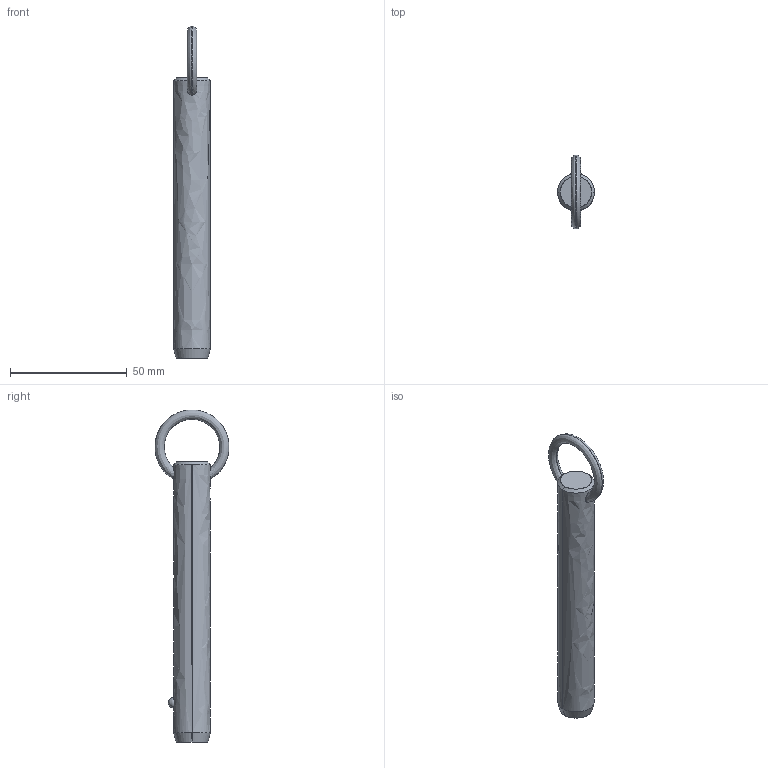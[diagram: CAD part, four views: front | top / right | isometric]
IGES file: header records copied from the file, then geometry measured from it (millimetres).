
Start section: SolidWorks IGES file using analytic representation for surfaces
Global section: file name: C:\Users\liam_\OneDrive\Documents\WORK\Work for WixRoyd\Job Files\J-00019 - Matt Davis CAD Checking\04. CAD Drawings\automotion20190605\P1250.2_v2\P1250.2_v2_20190729_IGES\P1250.062-360.igs; native system: SolidWorks 2017; preprocessor: SolidWorks 2017; author: liam_; date: 190729.233552; units: millimetre
Bounding box: 15.8 x 31.63 x 142.08 mm (x, y, z)
Surface area: 7125.3 mm2 (no closed solid volume)
Topology: 0 solids, 0 shells, 12 faces, 292 edges, 290 vertices
Faces by surface type: revolution 8, bspline 4
